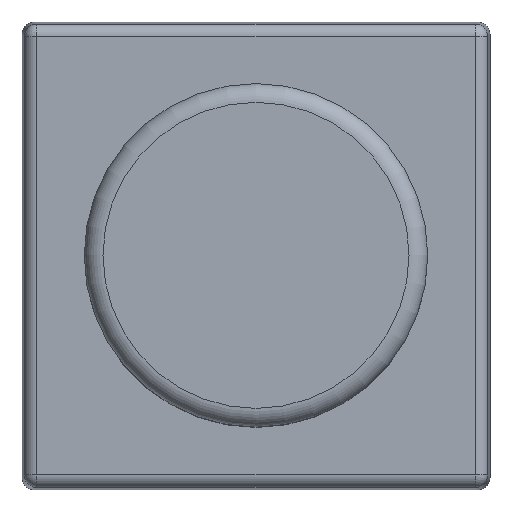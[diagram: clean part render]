
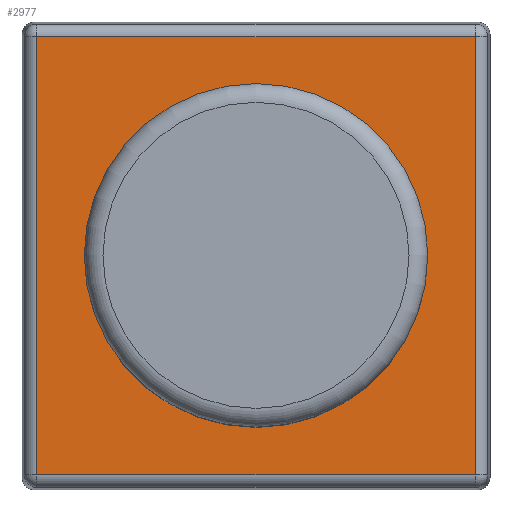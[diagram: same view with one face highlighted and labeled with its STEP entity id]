
A CAD part, top view. The second image highlights one B-rep face of the part: STEP entity #2977.
In plain terms, the highlighted planar face has unit normal (0, 0, 1).
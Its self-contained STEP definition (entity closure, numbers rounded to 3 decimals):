
#112=FACE_BOUND('',#546,.T.);
#207=PLANE('',#3234);
#374=FACE_OUTER_BOUND('',#545,.T.);
#545=EDGE_LOOP('',(#2586,#2587,#2588,#2589));
#546=EDGE_LOOP('',(#2590));
#835=LINE('',#4633,#1206);
#839=LINE('',#4646,#1210);
#841=LINE('',#4649,#1212);
#843=LINE('',#4652,#1214);
#1206=VECTOR('',#3801,10.);
#1210=VECTOR('',#3817,10.);
#1212=VECTOR('',#3821,10.);
#1214=VECTOR('',#3825,10.);
#1369=CIRCLE('',#3235,2.75);
#1536=VERTEX_POINT('',#4594);
#1542=VERTEX_POINT('',#4614);
#1545=VERTEX_POINT('',#4624);
#1548=VERTEX_POINT('',#4637);
#1550=VERTEX_POINT('',#4665);
#1895=EDGE_CURVE('',#1536,#1545,#835,.T.);
#1902=EDGE_CURVE('',#1545,#1548,#839,.T.);
#1904=EDGE_CURVE('',#1548,#1542,#841,.T.);
#1906=EDGE_CURVE('',#1542,#1536,#843,.T.);
#1912=EDGE_CURVE('',#1550,#1550,#1369,.T.);
#2586=ORIENTED_EDGE('',*,*,#1895,.F.);
#2587=ORIENTED_EDGE('',*,*,#1906,.F.);
#2588=ORIENTED_EDGE('',*,*,#1904,.F.);
#2589=ORIENTED_EDGE('',*,*,#1902,.F.);
#2590=ORIENTED_EDGE('',*,*,#1912,.T.);
#2977=ADVANCED_FACE('',(#374,#112),#207,.T.);
#3234=AXIS2_PLACEMENT_3D('',#4664,#3843,#3844);
#3235=AXIS2_PLACEMENT_3D('',#4666,#3845,#3846);
#3801=DIRECTION('',(0.,-1.,0.));
#3817=DIRECTION('',(-1.,0.,0.));
#3821=DIRECTION('',(0.,1.,0.));
#3825=DIRECTION('',(1.,0.,0.));
#3843=DIRECTION('center_axis',(0.,0.,1.));
#3844=DIRECTION('ref_axis',(1.,0.,0.));
#3845=DIRECTION('center_axis',(0.,0.,-1.));
#3846=DIRECTION('ref_axis',(-1.,0.,0.));
#4594=CARTESIAN_POINT('',(-2.492,1.346,14.038));
#4614=CARTESIAN_POINT('',(-9.512,1.346,14.038));
#4624=CARTESIAN_POINT('',(-2.492,-5.674,14.038));
#4633=CARTESIAN_POINT('',(-2.492,-4.039,14.038));
#4637=CARTESIAN_POINT('',(-9.512,-5.674,14.038));
#4646=CARTESIAN_POINT('',(-7.877,-5.674,14.038));
#4649=CARTESIAN_POINT('',(-9.512,-0.289,14.038));
#4652=CARTESIAN_POINT('',(-4.127,1.346,14.038));
#4664=CARTESIAN_POINT('Origin',(-6.002,-2.164,14.038));
#4665=CARTESIAN_POINT('',(-3.252,-2.164,14.038));
#4666=CARTESIAN_POINT('Origin',(-6.002,-2.164,14.038));
